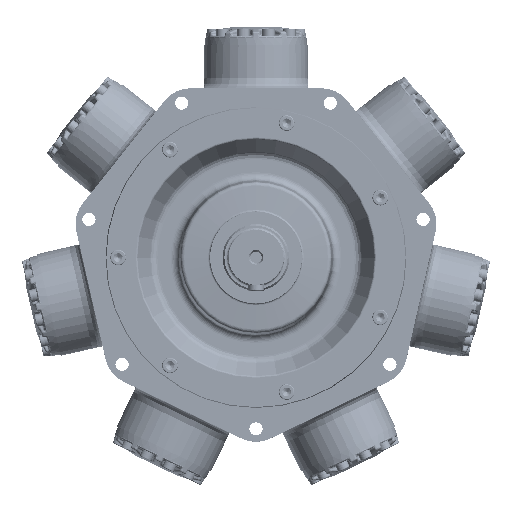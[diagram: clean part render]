
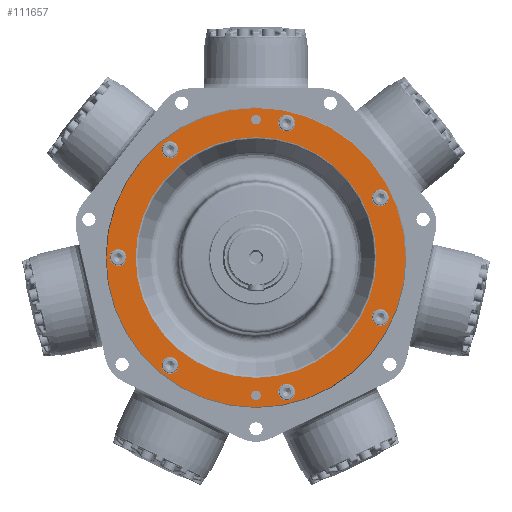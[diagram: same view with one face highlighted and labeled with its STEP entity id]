
A CAD part, top view. The second image highlights one B-rep face of the part: STEP entity #111657.
In plain terms, the highlighted planar face has unit normal (0, 0, 1).
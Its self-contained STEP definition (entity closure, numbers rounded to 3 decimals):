
#10526=FACE_BOUND('',#22156,.T.);
#10527=FACE_BOUND('',#22157,.T.);
#10528=FACE_BOUND('',#22158,.T.);
#10529=FACE_BOUND('',#22159,.T.);
#10530=FACE_BOUND('',#22160,.T.);
#10531=FACE_BOUND('',#22161,.T.);
#10532=FACE_BOUND('',#22162,.T.);
#10533=FACE_BOUND('',#22163,.T.);
#10534=FACE_BOUND('',#22164,.T.);
#10535=FACE_BOUND('',#22165,.T.);
#11611=PLANE('',#118980);
#15076=FACE_OUTER_BOUND('',#22155,.T.);
#22155=EDGE_LOOP('',(#79548));
#22156=EDGE_LOOP('',(#79549));
#22157=EDGE_LOOP('',(#79550));
#22158=EDGE_LOOP('',(#79551));
#22159=EDGE_LOOP('',(#79552));
#22160=EDGE_LOOP('',(#79553));
#22161=EDGE_LOOP('',(#79554));
#22162=EDGE_LOOP('',(#79555));
#22163=EDGE_LOOP('',(#79556));
#22164=EDGE_LOOP('',(#79557));
#22165=EDGE_LOOP('',(#79558));
#39438=CIRCLE('',#118976,182.808);
#39440=CIRCLE('',#118981,227.279);
#39441=CIRCLE('',#118982,7.176);
#39442=CIRCLE('',#118983,7.176);
#39443=CIRCLE('',#118984,12.7);
#39444=CIRCLE('',#118985,12.7);
#39445=CIRCLE('',#118986,12.7);
#39446=CIRCLE('',#118987,12.7);
#39447=CIRCLE('',#118988,12.7);
#39448=CIRCLE('',#118989,12.7);
#39449=CIRCLE('',#118990,12.7);
#45746=VERTEX_POINT('',#185294);
#45748=VERTEX_POINT('',#185303);
#45749=VERTEX_POINT('',#185305);
#45750=VERTEX_POINT('',#185307);
#45751=VERTEX_POINT('',#185309);
#45752=VERTEX_POINT('',#185311);
#45753=VERTEX_POINT('',#185313);
#45754=VERTEX_POINT('',#185315);
#45755=VERTEX_POINT('',#185317);
#45756=VERTEX_POINT('',#185319);
#45757=VERTEX_POINT('',#185321);
#57677=EDGE_CURVE('',#45746,#45746,#39438,.T.);
#57680=EDGE_CURVE('',#45748,#45748,#39440,.T.);
#57681=EDGE_CURVE('',#45749,#45749,#39441,.T.);
#57682=EDGE_CURVE('',#45750,#45750,#39442,.T.);
#57683=EDGE_CURVE('',#45751,#45751,#39443,.T.);
#57684=EDGE_CURVE('',#45752,#45752,#39444,.T.);
#57685=EDGE_CURVE('',#45753,#45753,#39445,.T.);
#57686=EDGE_CURVE('',#45754,#45754,#39446,.T.);
#57687=EDGE_CURVE('',#45755,#45755,#39447,.T.);
#57688=EDGE_CURVE('',#45756,#45756,#39448,.T.);
#57689=EDGE_CURVE('',#45757,#45757,#39449,.T.);
#79548=ORIENTED_EDGE('',*,*,#57680,.F.);
#79549=ORIENTED_EDGE('',*,*,#57681,.T.);
#79550=ORIENTED_EDGE('',*,*,#57682,.T.);
#79551=ORIENTED_EDGE('',*,*,#57683,.T.);
#79552=ORIENTED_EDGE('',*,*,#57684,.T.);
#79553=ORIENTED_EDGE('',*,*,#57685,.T.);
#79554=ORIENTED_EDGE('',*,*,#57686,.T.);
#79555=ORIENTED_EDGE('',*,*,#57687,.T.);
#79556=ORIENTED_EDGE('',*,*,#57688,.T.);
#79557=ORIENTED_EDGE('',*,*,#57689,.T.);
#79558=ORIENTED_EDGE('',*,*,#57677,.F.);
#111657=ADVANCED_FACE('',(#15076,#10526,#10527,#10528,#10529,#10530,#10531,
#10532,#10533,#10534,#10535),#11611,.T.);
#118976=AXIS2_PLACEMENT_3D('',#185296,#132593,#132594);
#118980=AXIS2_PLACEMENT_3D('',#185302,#132602,#132603);
#118981=AXIS2_PLACEMENT_3D('',#185304,#132604,#132605);
#118982=AXIS2_PLACEMENT_3D('',#185306,#132606,#132607);
#118983=AXIS2_PLACEMENT_3D('',#185308,#132608,#132609);
#118984=AXIS2_PLACEMENT_3D('',#185310,#132610,#132611);
#118985=AXIS2_PLACEMENT_3D('',#185312,#132612,#132613);
#118986=AXIS2_PLACEMENT_3D('',#185314,#132614,#132615);
#118987=AXIS2_PLACEMENT_3D('',#185316,#132616,#132617);
#118988=AXIS2_PLACEMENT_3D('',#185318,#132618,#132619);
#118989=AXIS2_PLACEMENT_3D('',#185320,#132620,#132621);
#118990=AXIS2_PLACEMENT_3D('',#185322,#132622,#132623);
#132593=DIRECTION('center_axis',(0.,0.,
1.));
#132594=DIRECTION('ref_axis',(1.,0.,0.));
#132602=DIRECTION('center_axis',(0.,0.,
1.));
#132603=DIRECTION('ref_axis',(0.,1.,0.));
#132604=DIRECTION('center_axis',(0.,0.,
-1.));
#132605=DIRECTION('ref_axis',(0.,1.,0.));
#132606=DIRECTION('center_axis',(0.,0.,
-1.));
#132607=DIRECTION('ref_axis',(1.,0.,0.));
#132608=DIRECTION('center_axis',(0.,0.,
-1.));
#132609=DIRECTION('ref_axis',(1.,0.,0.));
#132610=DIRECTION('center_axis',(0.,0.,
-1.));
#132611=DIRECTION('ref_axis',(-0.623,0.782,0.));
#132612=DIRECTION('center_axis',(0.,0.,
-1.));
#132613=DIRECTION('ref_axis',(0.223,0.975,0.));
#132614=DIRECTION('center_axis',(0.,0.,
-1.));
#132615=DIRECTION('ref_axis',(0.901,0.434,0.));
#132616=DIRECTION('center_axis',(0.,0.,
-1.));
#132617=DIRECTION('ref_axis',(0.901,-0.434,0.));
#132618=DIRECTION('center_axis',(0.,0.,
-1.));
#132619=DIRECTION('ref_axis',(0.223,-0.975,0.));
#132620=DIRECTION('center_axis',(0.,0.,
-1.));
#132621=DIRECTION('ref_axis',(-0.623,-0.782,0.));
#132622=DIRECTION('center_axis',(0.,0.,
-1.));
#132623=DIRECTION('ref_axis',(-1.,0.,0.));
#185294=CARTESIAN_POINT('',(0.,-182.808,123.104));
#185296=CARTESIAN_POINT('Origin',(0.,0.,
123.104));
#185302=CARTESIAN_POINT('Origin',(-206.375,0.,123.104));
#185303=CARTESIAN_POINT('',(0.,-227.279,123.104));
#185304=CARTESIAN_POINT('Origin',(0.,0.,
123.104));
#185305=CARTESIAN_POINT('',(-7.175,209.55,123.104));
#185306=CARTESIAN_POINT('Origin',(0.,209.55,123.104));
#185307=CARTESIAN_POINT('',(-7.176,-209.55,123.104));
#185308=CARTESIAN_POINT('Origin',(0.,-209.55,123.104));
#185309=CARTESIAN_POINT('',(-122.734,153.904,123.104));
#185310=CARTESIAN_POINT('Origin',(-130.652,163.833,123.104));
#185311=CARTESIAN_POINT('',(43.803,191.915,123.104));
#185312=CARTESIAN_POINT('Origin',(46.629,204.296,123.104));
#185313=CARTESIAN_POINT('',(177.356,85.41,123.104));
#185314=CARTESIAN_POINT('Origin',(188.798,90.92,123.104));
#185315=CARTESIAN_POINT('',(177.356,-85.41,123.104));
#185316=CARTESIAN_POINT('Origin',(188.798,-90.92,123.104));
#185317=CARTESIAN_POINT('',(43.803,-191.915,123.104));
#185318=CARTESIAN_POINT('Origin',(46.629,-204.296,123.104));
#185319=CARTESIAN_POINT('',(-122.734,-153.904,123.104));
#185320=CARTESIAN_POINT('Origin',(-130.652,-163.833,123.104));
#185321=CARTESIAN_POINT('',(-196.85,0.,123.104));
#185322=CARTESIAN_POINT('Origin',(-209.55,0.,123.104));
